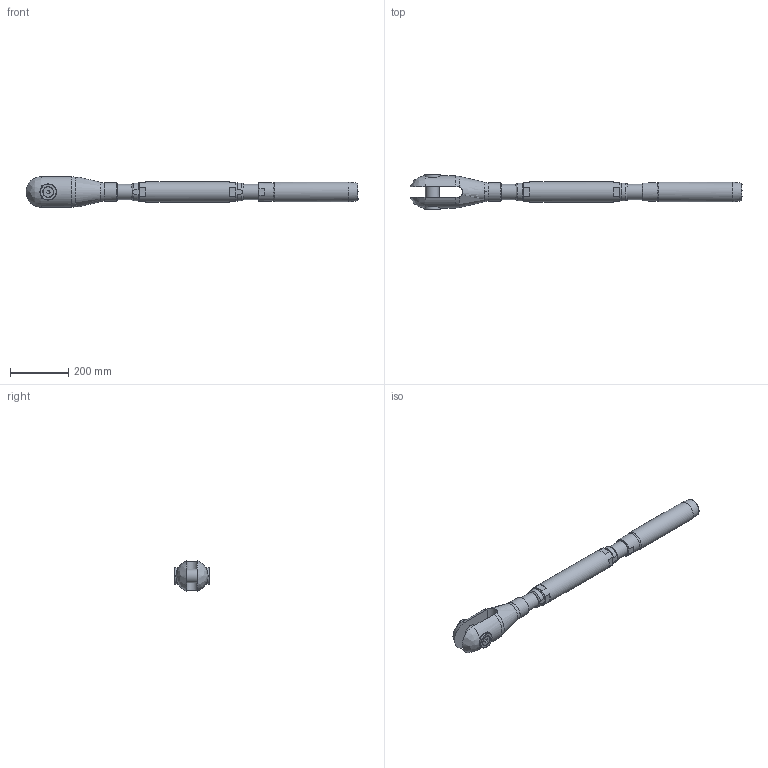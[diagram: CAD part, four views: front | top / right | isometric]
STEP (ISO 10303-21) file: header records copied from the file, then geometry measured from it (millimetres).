
FILE_DESCRIPTION(/* description */ (''),/* implementation_level */ '2;1');
FILE_NAME(/* name */ 'TBC 34_42CrMo4',/* time_stamp */ '2023-05-23T18:16:49+02:00',/* author */ (''),/* organization */ (''),/* preprocessor_version */ 'ST-DEVELOPER v16.5',/* originating_system */ 'Rhino 7.22',/* authorisation */ '');
FILE_SCHEMA (('CONFIG_CONTROL_DESIGN'));
Length unit declared in the file: millimetre
Products named in the file (1): Document
Bounding box: 1136.74 x 119.48 x 103.59 mm (x, y, z)
Volume: 4098415.7 mm3; surface area: 454491.3 mm2
Topology: 10 solids, 10 shells, 142 faces, 389 edges, 269 vertices
Faces by surface type: plane 65, bspline 42, cylinder 35
Full cylindrical faces by diameter (mm): 17.294 x2, 20 x2, 21 x2, 35.4 x2, 47 x1, 48.752 x4, 49 x2, 52 x2, 55 x2, 56 x1, 63.5 x2, 66.8 x1, 69 x1
Entity records: 6085 total; most frequent: CARTESIAN_POINT 3626, ORIENTED_EDGE 770, EDGE_CURVE 385, VERTEX_POINT 269, EDGE_LOOP 162, B_SPLINE_CURVE_WITH_KNOTS 159, ADVANCED_FACE 142, FACE_OUTER_BOUND 142
